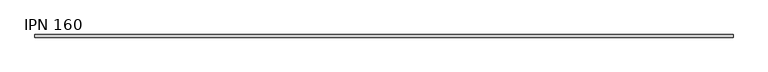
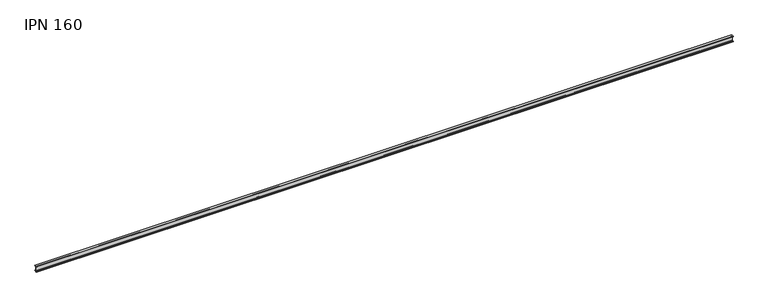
"""IFC4 building model written with IfcOpenShell, lengths in millimetres: beam geometry, IPN - Secciones en I con alas cónicas : IPN 160."""

from ifc_helpers import new_model, si_unit, point, frame, frame_2d, origin, place, context, project, spatial, polyline, circle_curve, trimmed, segment, composite_curve, outline, extrude, source, transform, mapped, element, save


def ipn_160_2642508a(model_context):
    return source(origin(), model_context, "Body", "SweptSolid", [
        extrude(outline(composite_curve([segment(polyline([(37.0, 80.0), (37.0, 76.3950593)]), True, "CONTINUOUS"), segment(trimmed(circle_curve(frame_2d((33.2, 76.3950593)), 3.8), [point((37.0, 76.3950593))], [point((33.7268618, 72.6317607))], False, "CARTESIAN"), True, "CONTINUOUS"), segment(polyline([(33.7268618, 72.6317607), (8.5765186, 69.1107126)]), True, "CONTINUOUS"), segment(trimmed(circle_curve(frame_2d((9.45, 62.8715596)), 6.3), [point((8.5765186, 69.1107126))], [point((3.15, 62.8715596))], True, "CARTESIAN"), True, "CONTINUOUS"), segment(polyline([(3.15, 62.8715596), (3.15, -62.8715596)]), True, "CONTINUOUS"), segment(trimmed(circle_curve(frame_2d((9.45, -62.8715596)), 6.3), [point((3.15, -62.8715596))], [point((8.5765186, -69.1107126))], True, "CARTESIAN"), True, "CONTINUOUS"), segment(polyline([(8.5765186, -69.1107126), (33.7268618, -72.6317607)]), True, "CONTINUOUS"), segment(trimmed(circle_curve(frame_2d((33.2, -76.3950593)), 3.8), [point((33.7268618, -72.6317607))], [point((37.0, -76.3950593))], False, "CARTESIAN"), True, "CONTINUOUS"), segment(polyline([(37.0, -76.3950593), (37.0, -80.0), (-37.0, -80.0), (-37.0, -76.3950593)]), True, "CONTINUOUS"), segment(trimmed(circle_curve(frame_2d((-33.2, -76.3950593)), 3.8), [point((-37.0, -76.3950593))], [point((-33.7268618, -72.6317607))], False, "CARTESIAN"), True, "CONTINUOUS"), segment(polyline([(-33.7268618, -72.6317607), (-8.5765186, -69.1107126)]), True, "CONTINUOUS"), segment(trimmed(circle_curve(frame_2d((-9.45, -62.8715596)), 6.3), [point((-8.5765186, -69.1107126))], [point((-3.15, -62.8715596))], True, "CARTESIAN"), True, "CONTINUOUS"), segment(polyline([(-3.15, -62.8715596), (-3.15, 62.8715596)]), True, "CONTINUOUS"), segment(trimmed(circle_curve(frame_2d((-9.45, 62.8715596)), 6.3), [point((-3.15, 62.8715596))], [point((-8.5765186, 69.1107126))], True, "CARTESIAN"), True, "CONTINUOUS"), segment(polyline([(-8.5765186, 69.1107126), (-33.7268618, 72.6317607)]), True, "CONTINUOUS"), segment(trimmed(circle_curve(frame_2d((-33.2, 76.3950593)), 3.8), [point((-33.7268618, 72.6317607))], [point((-37.0, 76.3950593))], False, "CARTESIAN"), True, "CONTINUOUS"), segment(polyline([(-37.0, 76.3950593), (-37.0, 80.0), (37.0, 80.0)]), True, "CONTINUOUS")], self_intersect=False)), frame((-9843.7013619, 0.0, 0.0), z_axis=(1.0, 0.0, 0.0), x_axis=(0.0, 1.0, 0.0)), (0.0, 0.0, 1.0), 19595.201362),
    ])


if __name__ == "__main__":
    model = new_model("IFC4")
    model_context = context("Model", 3, world=origin())
    ifc_project = project(units=[si_unit("LENGTHUNIT", "METRE", prefix="MILLI")], contexts=[model_context])
    site = spatial("IfcSite", under=ifc_project)
    building = spatial("IfcBuilding", under=site)
    placement = place(None, origin())
    ipn_160_shape = ipn_160_2642508a(model_context)
    element("IfcBeam", 1, ObjectType="IPN - Secciones en I con alas cónicas : IPN 160", at=placement, inside=building, context=model_context, shape_type="MappedRepresentation", body=[
        mapped(ipn_160_shape, transform((0.0, 0.0, 0.0), x_axis=(1.0, 0.0, 0.0), y_axis=(0.0, 1.0, 0.0), z_axis=(0.0, 0.0, 1.0))),
    ])
    save(model, "model.ifc")
